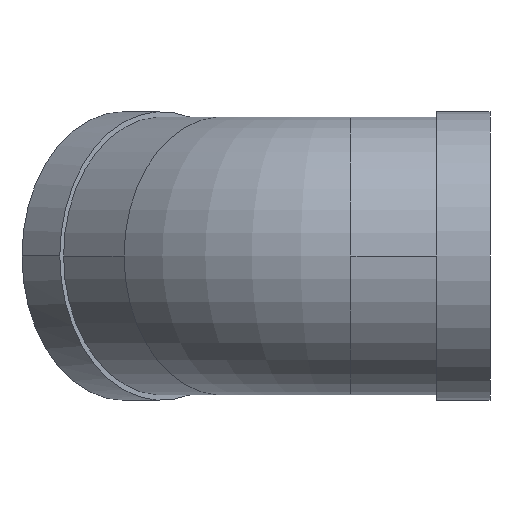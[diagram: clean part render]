
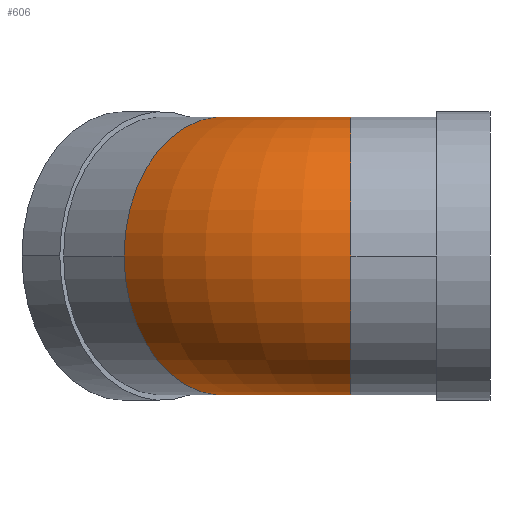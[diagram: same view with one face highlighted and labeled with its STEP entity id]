
A CAD part, front view. The second image highlights one B-rep face of the part: STEP entity #606.
In plain terms, the highlighted toroidal (fillet/blend) face has major radius 17 mm and minor radius 13 mm.
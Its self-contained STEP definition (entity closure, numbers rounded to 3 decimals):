
#23 = DIRECTION ( 'NONE',  ( 0., -1., 0. ) ) ;
#26 = CARTESIAN_POINT ( 'NONE',  ( -34.213, -4.213, 0. ) ) ;
#76 = ORIENTED_EDGE ( 'NONE', *, *, #102, .F. ) ;
#78 = DIRECTION ( 'NONE',  ( -1., 0., 0. ) ) ;
#80 = TOROIDAL_SURFACE ( 'NONE', #243, 17., 13. ) ;
#85 = CIRCLE ( 'NONE', #584, 13. ) ;
#86 = VERTEX_POINT ( 'NONE', #135 ) ;
#101 = VERTEX_POINT ( 'NONE', #279 ) ;
#102 = EDGE_CURVE ( 'NONE', #101, #86, #261, .T. ) ;
#131 = CIRCLE ( 'NONE', #743, 13. ) ;
#135 = CARTESIAN_POINT ( 'NONE',  ( -13., 12.913, 1.5 ) ) ;
#136 = EDGE_CURVE ( 'NONE', #209, #775, #85, .T. ) ;
#162 = CARTESIAN_POINT ( 'NONE',  ( -13., 17., 0. ) ) ;
#175 = DIRECTION ( 'NONE',  ( -0.707, 0.707, 0. ) ) ;
#209 = VERTEX_POINT ( 'NONE', #702 ) ;
#243 = AXIS2_PLACEMENT_3D ( 'NONE', #162, #362, #832 ) ;
#252 = CARTESIAN_POINT ( 'NONE',  ( -13., -13., 0. ) ) ;
#261 = CIRCLE ( 'NONE', #722, 4.087 ) ;
#271 = VERTEX_POINT ( 'NONE', #26 ) ;
#272 = DIRECTION ( 'NONE',  ( -1., 0., 0. ) ) ;
#279 = CARTESIAN_POINT ( 'NONE',  ( -15.89, 14.11, 1.5 ) ) ;
#351 = EDGE_CURVE ( 'NONE', #271, #101, #131, .T. ) ;
#362 = DIRECTION ( 'NONE',  ( 0., 0., -1. ) ) ;
#389 = VERTEX_POINT ( 'NONE', #669 ) ;
#390 = DIRECTION ( 'NONE',  ( -0.707, -0.707, 0. ) ) ;
#391 = CIRCLE ( 'NONE', #414, 13. ) ;
#403 = ORIENTED_EDGE ( 'NONE', *, *, #470, .F. ) ;
#414 = AXIS2_PLACEMENT_3D ( 'NONE', #808, #600, #688 ) ;
#470 = EDGE_CURVE ( 'NONE', #389, #271, #391, .T. ) ;
#472 = CARTESIAN_POINT ( 'NONE',  ( -13., 17., 1.5 ) ) ;
#474 = AXIS2_PLACEMENT_3D ( 'NONE', #624, #78, #23 ) ;
#504 = ORIENTED_EDGE ( 'NONE', *, *, #601, .T. ) ;
#522 = ORIENTED_EDGE ( 'NONE', *, *, #837, .F. ) ;
#536 = DIRECTION ( 'NONE',  ( 0., -1., 0. ) ) ;
#556 = DIRECTION ( 'NONE',  ( 0., 1., 0. ) ) ;
#581 = CARTESIAN_POINT ( 'NONE',  ( -25.021, 4.979, 0. ) ) ;
#584 = AXIS2_PLACEMENT_3D ( 'NONE', #749, #272, #536 ) ;
#600 = DIRECTION ( 'NONE',  ( -0.707, 0.707, 0. ) ) ;
#601 = EDGE_CURVE ( 'NONE', #775, #86, #841, .T. ) ;
#606 = ADVANCED_FACE ( 'NONE', ( #772 ), #80, .T. ) ;
#619 = DIRECTION ( 'NONE',  ( 0., 0., 1. ) ) ;
#624 = CARTESIAN_POINT ( 'NONE',  ( -13., 0., 0. ) ) ;
#667 = DIRECTION ( 'NONE',  ( 0., -1., 0. ) ) ;
#669 = CARTESIAN_POINT ( 'NONE',  ( -15.89, 14.11, -1.5 ) ) ;
#683 = CIRCLE ( 'NONE', #729, 4.087 ) ;
#688 = DIRECTION ( 'NONE',  ( -0.707, -0.707, 0. ) ) ;
#702 = CARTESIAN_POINT ( 'NONE',  ( -13., 12.913, -1.5 ) ) ;
#722 = AXIS2_PLACEMENT_3D ( 'NONE', #472, #619, #556 ) ;
#729 = AXIS2_PLACEMENT_3D ( 'NONE', #870, #861, #667 ) ;
#743 = AXIS2_PLACEMENT_3D ( 'NONE', #581, #175, #390 ) ;
#749 = CARTESIAN_POINT ( 'NONE',  ( -13., 0., 0. ) ) ;
#770 = ORIENTED_EDGE ( 'NONE', *, *, #351, .F. ) ;
#772 = FACE_OUTER_BOUND ( 'NONE', #798, .T. ) ;
#775 = VERTEX_POINT ( 'NONE', #252 ) ;
#798 = EDGE_LOOP ( 'NONE', ( #76, #770, #403, #522, #892, #504 ) ) ;
#808 = CARTESIAN_POINT ( 'NONE',  ( -25.021, 4.979, 0. ) ) ;
#832 = DIRECTION ( 'NONE',  ( -1., 0., 0. ) ) ;
#837 = EDGE_CURVE ( 'NONE', #209, #389, #683, .T. ) ;
#841 = CIRCLE ( 'NONE', #474, 13. ) ;
#861 = DIRECTION ( 'NONE',  ( 0., 0., -1. ) ) ;
#870 = CARTESIAN_POINT ( 'NONE',  ( -13., 17., -1.5 ) ) ;
#892 = ORIENTED_EDGE ( 'NONE', *, *, #136, .T. ) ;
